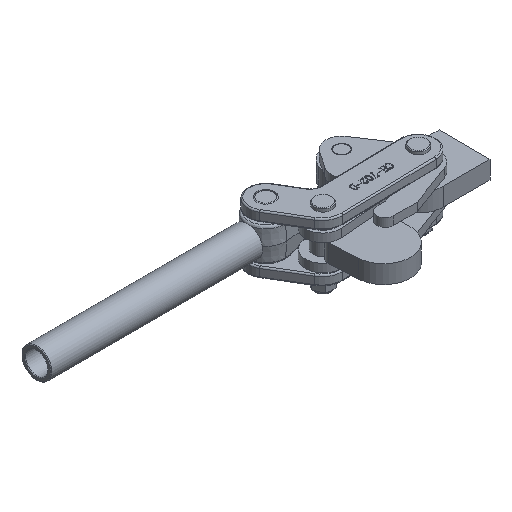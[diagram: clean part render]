
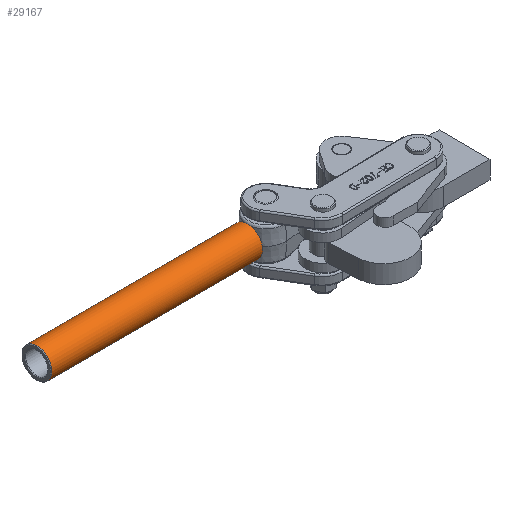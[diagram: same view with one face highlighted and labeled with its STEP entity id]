
A CAD part, isometric view. The second image highlights one B-rep face of the part: STEP entity #29167.
In plain terms, the highlighted cylindrical face has radius 10.75 mm (diameter 21.5 mm), a full revolution.
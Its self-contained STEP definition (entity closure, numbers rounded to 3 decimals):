
#887=B_SPLINE_CURVE_WITH_KNOTS('',3,(#55297,#55298,#55299,#55300,#55301,
#55302,#55303,#55304,#55305,#55306,#55307,#55308,#55309,#55310),
 .UNSPECIFIED.,.F.,.F.,(4,2,2,2,2,2,4),(-0.427,-0.384,
-0.298,-0.245,-0.197,-0.134,
-0.04),.UNSPECIFIED.);
#888=B_SPLINE_CURVE_WITH_KNOTS('',3,(#55312,#55313,#55314,#55315,#55316,
#55317),.UNSPECIFIED.,.F.,.F.,(4,2,4),(5.418,5.435,
5.58),.UNSPECIFIED.);
#889=B_SPLINE_CURVE_WITH_KNOTS('',3,(#55321,#55322,#55323,#55324,#55325,
#55326),.UNSPECIFIED.,.F.,.F.,(4,2,4),(4.877,5.022,
5.039),.UNSPECIFIED.);
#890=B_SPLINE_CURVE_WITH_KNOTS('',3,(#55328,#55329,#55330,#55331,#55332,
#55333,#55334,#55335),.UNSPECIFIED.,.F.,.F.,(4,2,2,4),(0.04,
0.134,0.197,0.233),.UNSPECIFIED.);
#891=B_SPLINE_CURVE_WITH_KNOTS('',3,(#55338,#55339,#55340,#55341,#55342,
#55343,#55344,#55345,#55346,#55347),.UNSPECIFIED.,.F.,.F.,(4,2,2,2,4),(0.233,
0.245,0.298,0.384,0.427),
 .UNSPECIFIED.);
#892=B_SPLINE_CURVE_WITH_KNOTS('',3,(#55349,#55350,#55351,#55352,#55353,
#55354),.UNSPECIFIED.,.F.,.F.,(4,2,4),(-1.474,-1.456,
-1.312),.UNSPECIFIED.);
#893=B_SPLINE_CURVE_WITH_KNOTS('',3,(#55357,#55358,#55359,#55360,#55361,
#55362),.UNSPECIFIED.,.F.,.F.,(4,2,4),(-2.015,-1.87,
-1.853),.UNSPECIFIED.);
#3987=LINE('',#55336,#6892);
#6892=VECTOR('',#37074,10.75);
#8058=CYLINDRICAL_SURFACE('',#31334,10.75);
#9116=FACE_OUTER_BOUND('',#10687,.T.);
#10687=EDGE_LOOP('',(#25315,#25316,#25317,#25318,#25319,#25320,#25321,#25322,
#25323,#25324,#25325,#25326,#25327));
#11758=CIRCLE('',#31325,10.75);
#11759=CIRCLE('',#31326,10.75);
#11766=CIRCLE('',#31335,10.75);
#11767=CIRCLE('',#31336,10.75);
#14121=VERTEX_POINT('',#55275);
#14122=VERTEX_POINT('',#55276);
#14129=VERTEX_POINT('',#55295);
#14130=VERTEX_POINT('',#55296);
#14131=VERTEX_POINT('',#55311);
#14132=VERTEX_POINT('',#55318);
#14133=VERTEX_POINT('',#55320);
#14134=VERTEX_POINT('',#55327);
#14135=VERTEX_POINT('',#55337);
#14136=VERTEX_POINT('',#55348);
#14137=VERTEX_POINT('',#55355);
#18001=EDGE_CURVE('',#14121,#14122,#11758,.T.);
#18002=EDGE_CURVE('',#14122,#14121,#11759,.T.);
#18011=EDGE_CURVE('',#14129,#14130,#887,.T.);
#18012=EDGE_CURVE('',#14129,#14131,#888,.T.);
#18013=EDGE_CURVE('',#14131,#14132,#11766,.T.);
#18014=EDGE_CURVE('',#14132,#14133,#889,.T.);
#18015=EDGE_CURVE('',#14134,#14133,#890,.F.);
#18016=EDGE_CURVE('',#14134,#14122,#3987,.T.);
#18017=EDGE_CURVE('',#14135,#14134,#891,.F.);
#18018=EDGE_CURVE('',#14135,#14136,#892,.T.);
#18019=EDGE_CURVE('',#14136,#14137,#11767,.T.);
#18020=EDGE_CURVE('',#14137,#14130,#893,.T.);
#25315=ORIENTED_EDGE('',*,*,#18011,.F.);
#25316=ORIENTED_EDGE('',*,*,#18012,.T.);
#25317=ORIENTED_EDGE('',*,*,#18013,.T.);
#25318=ORIENTED_EDGE('',*,*,#18014,.T.);
#25319=ORIENTED_EDGE('',*,*,#18015,.F.);
#25320=ORIENTED_EDGE('',*,*,#18016,.T.);
#25321=ORIENTED_EDGE('',*,*,#18002,.T.);
#25322=ORIENTED_EDGE('',*,*,#18001,.T.);
#25323=ORIENTED_EDGE('',*,*,#18016,.F.);
#25324=ORIENTED_EDGE('',*,*,#18017,.F.);
#25325=ORIENTED_EDGE('',*,*,#18018,.T.);
#25326=ORIENTED_EDGE('',*,*,#18019,.T.);
#25327=ORIENTED_EDGE('',*,*,#18020,.T.);
#29167=ADVANCED_FACE('',(#9116),#8058,.T.);
#31325=AXIS2_PLACEMENT_3D('',#55277,#37050,#37051);
#31326=AXIS2_PLACEMENT_3D('',#55278,#37052,#37053);
#31334=AXIS2_PLACEMENT_3D('',#55294,#37070,#37071);
#31335=AXIS2_PLACEMENT_3D('',#55319,#37072,#37073);
#31336=AXIS2_PLACEMENT_3D('',#55356,#37075,#37076);
#37050=DIRECTION('center_axis',(0.,-1.,0.));
#37051=DIRECTION('ref_axis',(0.,0.,1.));
#37052=DIRECTION('center_axis',(0.,-1.,0.));
#37053=DIRECTION('ref_axis',(0.,0.,1.));
#37070=DIRECTION('center_axis',(0.,-1.,0.));
#37071=DIRECTION('ref_axis',(0.,0.,-1.));
#37072=DIRECTION('center_axis',(0.,1.,0.));
#37073=DIRECTION('ref_axis',(0.,0.,1.));
#37074=DIRECTION('',(0.,1.,0.));
#37075=DIRECTION('center_axis',(0.,1.,0.));
#37076=DIRECTION('ref_axis',(0.,0.,1.));
#55275=CARTESIAN_POINT('',(0.,164.9,-10.75));
#55276=CARTESIAN_POINT('',(0.,164.9,10.75));
#55277=CARTESIAN_POINT('Origin',(0.,164.9,0.));
#55278=CARTESIAN_POINT('Origin',(0.,164.9,0.));
#55294=CARTESIAN_POINT('Origin',(0.,165.4,0.));
#55295=CARTESIAN_POINT('',(-1.913,13.309,-10.579));
#55296=CARTESIAN_POINT('',(1.913,13.309,-10.579));
#55297=CARTESIAN_POINT('Ctrl Pts',(-1.913,13.309,-10.579));
#55298=CARTESIAN_POINT('Ctrl Pts',(-1.775,13.327,-10.603));
#55299=CARTESIAN_POINT('Ctrl Pts',(-1.637,13.343,-10.626));
#55300=CARTESIAN_POINT('Ctrl Pts',(-1.217,13.385,-10.685));
#55301=CARTESIAN_POINT('Ctrl Pts',(-0.933,13.403,-10.713));
#55302=CARTESIAN_POINT('Ctrl Pts',(-0.472,13.421,
-10.741));
#55303=CARTESIAN_POINT('Ctrl Pts',(-0.296,13.425,
-10.747));
#55304=CARTESIAN_POINT('Ctrl Pts',(0.043,13.427,
-10.751));
#55305=CARTESIAN_POINT('Ctrl Pts',(0.204,13.426,-10.749));
#55306=CARTESIAN_POINT('Ctrl Pts',(0.574,13.418,-10.737));
#55307=CARTESIAN_POINT('Ctrl Pts',(0.781,13.41,-10.724));
#55308=CARTESIAN_POINT('Ctrl Pts',(1.298,13.378,-10.676));
#55309=CARTESIAN_POINT('Ctrl Pts',(1.608,13.35,-10.634));
#55310=CARTESIAN_POINT('Ctrl Pts',(1.913,13.309,-10.579));
#55311=CARTESIAN_POINT('',(-3.518,13.,-10.158));
#55312=CARTESIAN_POINT('Ctrl Pts',(-1.913,13.309,-10.579));
#55313=CARTESIAN_POINT('Ctrl Pts',(-1.971,13.301,-10.568));
#55314=CARTESIAN_POINT('Ctrl Pts',(-2.029,13.293,-10.557));
#55315=CARTESIAN_POINT('Ctrl Pts',(-2.572,13.213,-10.45));
#55316=CARTESIAN_POINT('Ctrl Pts',(-3.052,13.117,-10.32));
#55317=CARTESIAN_POINT('Ctrl Pts',(-3.518,13.,-10.158));
#55318=CARTESIAN_POINT('',(-3.518,13.,10.158));
#55319=CARTESIAN_POINT('Origin',(0.,13.,0.));
#55320=CARTESIAN_POINT('',(-1.913,13.309,10.579));
#55321=CARTESIAN_POINT('Ctrl Pts',(-3.518,13.,10.158));
#55322=CARTESIAN_POINT('Ctrl Pts',(-3.052,13.117,10.32));
#55323=CARTESIAN_POINT('Ctrl Pts',(-2.572,13.213,10.45));
#55324=CARTESIAN_POINT('Ctrl Pts',(-2.029,13.293,10.557));
#55325=CARTESIAN_POINT('Ctrl Pts',(-1.971,13.301,10.568));
#55326=CARTESIAN_POINT('Ctrl Pts',(-1.913,13.309,10.579));
#55327=CARTESIAN_POINT('',(0.,13.427,10.75));
#55328=CARTESIAN_POINT('Ctrl Pts',(-1.913,13.309,10.579));
#55329=CARTESIAN_POINT('Ctrl Pts',(-1.608,13.35,10.634));
#55330=CARTESIAN_POINT('Ctrl Pts',(-1.298,13.378,10.676));
#55331=CARTESIAN_POINT('Ctrl Pts',(-0.781,13.41,10.724));
#55332=CARTESIAN_POINT('Ctrl Pts',(-0.574,13.418,
10.737));
#55333=CARTESIAN_POINT('Ctrl Pts',(-0.244,13.425,
10.748));
#55334=CARTESIAN_POINT('Ctrl Pts',(-0.122,13.427,
10.75));
#55335=CARTESIAN_POINT('Ctrl Pts',(0.,13.427,
10.75));
#55336=CARTESIAN_POINT('',(0.,165.4,10.75));
#55337=CARTESIAN_POINT('',(1.913,13.309,10.579));
#55338=CARTESIAN_POINT('Ctrl Pts',(0.,13.427,
10.75));
#55339=CARTESIAN_POINT('Ctrl Pts',(0.04,13.427,
10.75));
#55340=CARTESIAN_POINT('Ctrl Pts',(0.079,13.427,
10.75));
#55341=CARTESIAN_POINT('Ctrl Pts',(0.296,13.425,10.747));
#55342=CARTESIAN_POINT('Ctrl Pts',(0.472,13.421,10.741));
#55343=CARTESIAN_POINT('Ctrl Pts',(0.933,13.403,10.713));
#55344=CARTESIAN_POINT('Ctrl Pts',(1.217,13.385,10.685));
#55345=CARTESIAN_POINT('Ctrl Pts',(1.637,13.343,10.626));
#55346=CARTESIAN_POINT('Ctrl Pts',(1.775,13.327,10.603));
#55347=CARTESIAN_POINT('Ctrl Pts',(1.913,13.309,10.579));
#55348=CARTESIAN_POINT('',(3.518,13.,10.158));
#55349=CARTESIAN_POINT('Ctrl Pts',(1.913,13.309,10.579));
#55350=CARTESIAN_POINT('Ctrl Pts',(1.971,13.301,10.568));
#55351=CARTESIAN_POINT('Ctrl Pts',(2.029,13.293,10.557));
#55352=CARTESIAN_POINT('Ctrl Pts',(2.572,13.213,10.45));
#55353=CARTESIAN_POINT('Ctrl Pts',(3.052,13.117,10.32));
#55354=CARTESIAN_POINT('Ctrl Pts',(3.518,13.,10.158));
#55355=CARTESIAN_POINT('',(3.518,13.,-10.158));
#55356=CARTESIAN_POINT('Origin',(0.,13.,0.));
#55357=CARTESIAN_POINT('Ctrl Pts',(3.518,13.,-10.158));
#55358=CARTESIAN_POINT('Ctrl Pts',(3.052,13.117,-10.32));
#55359=CARTESIAN_POINT('Ctrl Pts',(2.572,13.213,-10.45));
#55360=CARTESIAN_POINT('Ctrl Pts',(2.029,13.293,-10.557));
#55361=CARTESIAN_POINT('Ctrl Pts',(1.971,13.301,-10.568));
#55362=CARTESIAN_POINT('Ctrl Pts',(1.913,13.309,-10.579));
